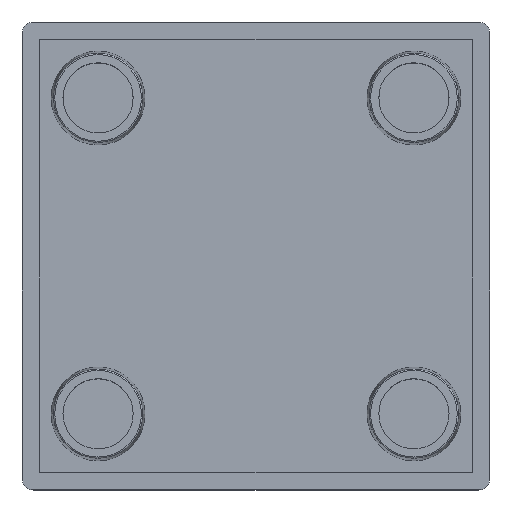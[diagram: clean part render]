
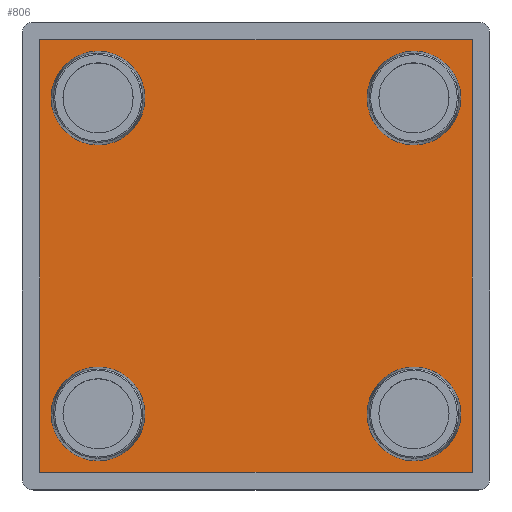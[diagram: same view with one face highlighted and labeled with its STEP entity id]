
A CAD part, top view. The second image highlights one B-rep face of the part: STEP entity #806.
In plain terms, the highlighted planar face has unit normal (0, 0, 1).
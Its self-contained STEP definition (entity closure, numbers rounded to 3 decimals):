
#16 = ORIENTED_EDGE ( 'NONE', *, *, #351, .T. ) ;
#30 = CARTESIAN_POINT ( 'NONE',  ( -13.5, -13.5, 1.5 ) ) ;
#50 = VERTEX_POINT ( 'NONE', #1244 ) ;
#70 = VERTEX_POINT ( 'NONE', #837 ) ;
#92 = CARTESIAN_POINT ( 'NONE',  ( -9.5, -13.5, 1.5 ) ) ;
#116 = LINE ( 'NONE', #1286, #218 ) ;
#141 = EDGE_LOOP ( 'NONE', ( #434, #449 ) ) ;
#147 = CARTESIAN_POINT ( 'NONE',  ( -13.5, -13.5, 1.5 ) ) ;
#157 = CARTESIAN_POINT ( 'NONE',  ( 13.5, 13.5, 1.5 ) ) ;
#159 = FACE_BOUND ( 'NONE', #632, .T. ) ;
#161 = DIRECTION ( 'NONE',  ( -1., 0., 0. ) ) ;
#162 = ORIENTED_EDGE ( 'NONE', *, *, #1660, .F. ) ;
#172 = AXIS2_PLACEMENT_3D ( 'NONE', #367, #1729, #758 ) ;
#173 = DIRECTION ( 'NONE',  ( -1., 0., 0. ) ) ;
#178 = DIRECTION ( 'NONE',  ( 0., 0., 1. ) ) ;
#186 = ORIENTED_EDGE ( 'NONE', *, *, #880, .F. ) ;
#218 = VECTOR ( 'NONE', #1159, 1000. ) ;
#235 = AXIS2_PLACEMENT_3D ( 'NONE', #405, #1416, #1600 ) ;
#240 = CIRCLE ( 'NONE', #1229, 4. ) ;
#275 = DIRECTION ( 'NONE',  ( -1., 0., 0. ) ) ;
#289 = DIRECTION ( 'NONE',  ( -1., 0., 0. ) ) ;
#293 = CARTESIAN_POINT ( 'NONE',  ( 13.5, 13.5, 1.5 ) ) ;
#308 = CIRCLE ( 'NONE', #1724, 4. ) ;
#319 = CIRCLE ( 'NONE', #470, 4. ) ;
#327 = AXIS2_PLACEMENT_3D ( 'NONE', #546, #496, #685 ) ;
#340 = ORIENTED_EDGE ( 'NONE', *, *, #1579, .T. ) ;
#347 = ORIENTED_EDGE ( 'NONE', *, *, #1551, .F. ) ;
#351 = EDGE_CURVE ( 'NONE', #1146, #967, #1720, .T. ) ;
#367 = CARTESIAN_POINT ( 'NONE',  ( -13.5, 13.5, 1.5 ) ) ;
#405 = CARTESIAN_POINT ( 'NONE',  ( 13.5, -13.5, 1.5 ) ) ;
#429 = EDGE_LOOP ( 'NONE', ( #1588, #1112 ) ) ;
#434 = ORIENTED_EDGE ( 'NONE', *, *, #722, .F. ) ;
#449 = ORIENTED_EDGE ( 'NONE', *, *, #491, .F. ) ;
#470 = AXIS2_PLACEMENT_3D ( 'NONE', #955, #994, #1531 ) ;
#483 = CIRCLE ( 'NONE', #1582, 4. ) ;
#491 = EDGE_CURVE ( 'NONE', #1654, #889, #652, .T. ) ;
#496 = DIRECTION ( 'NONE',  ( 0., 0., 1. ) ) ;
#506 = VECTOR ( 'NONE', #1674, 1000. ) ;
#516 = EDGE_CURVE ( 'NONE', #823, #721, #1667, .T. ) ;
#533 = EDGE_LOOP ( 'NONE', ( #16, #340, #607, #1722 ) ) ;
#537 = CARTESIAN_POINT ( 'NONE',  ( 18.5, 18.5, 1.5 ) ) ;
#546 = CARTESIAN_POINT ( 'NONE',  ( -13.5, 13.5, 1.5 ) ) ;
#560 = VERTEX_POINT ( 'NONE', #929 ) ;
#607 = ORIENTED_EDGE ( 'NONE', *, *, #1255, .T. ) ;
#632 = EDGE_LOOP ( 'NONE', ( #1628, #347 ) ) ;
#634 = CARTESIAN_POINT ( 'NONE',  ( -18.5, -18.5, 1.5 ) ) ;
#652 = CIRCLE ( 'NONE', #235, 4. ) ;
#668 = FACE_BOUND ( 'NONE', #141, .T. ) ;
#685 = DIRECTION ( 'NONE',  ( -1., 0., 0. ) ) ;
#689 = CARTESIAN_POINT ( 'NONE',  ( -9.5, 13.5, 1.5 ) ) ;
#703 = CARTESIAN_POINT ( 'NONE',  ( 18.5, -18.5, 1.5 ) ) ;
#708 = CARTESIAN_POINT ( 'NONE',  ( -18.5, 18.5, 1.5 ) ) ;
#709 = CARTESIAN_POINT ( 'NONE',  ( 9.5, -13.5, 1.5 ) ) ;
#721 = VERTEX_POINT ( 'NONE', #689 ) ;
#722 = EDGE_CURVE ( 'NONE', #889, #1654, #319, .T. ) ;
#730 = VECTOR ( 'NONE', #1703, 1000. ) ;
#758 = DIRECTION ( 'NONE',  ( -1., 0., 0. ) ) ;
#770 = CARTESIAN_POINT ( 'NONE',  ( 18.5, -18.5, 1.5 ) ) ;
#783 = VERTEX_POINT ( 'NONE', #1215 ) ;
#784 = AXIS2_PLACEMENT_3D ( 'NONE', #147, #1061, #275 ) ;
#794 = LINE ( 'NONE', #634, #841 ) ;
#795 = CIRCLE ( 'NONE', #784, 4. ) ;
#806 = ADVANCED_FACE ( 'NONE', ( #668, #1646, #1292, #159, #1355 ), #820, .F. ) ;
#811 = LINE ( 'NONE', #1027, #730 ) ;
#820 = PLANE ( 'NONE',  #1360 ) ;
#823 = VERTEX_POINT ( 'NONE', #1634 ) ;
#837 = CARTESIAN_POINT ( 'NONE',  ( 9.5, 13.5, 1.5 ) ) ;
#841 = VECTOR ( 'NONE', #1142, 1000. ) ;
#876 = VERTEX_POINT ( 'NONE', #708 ) ;
#880 = EDGE_CURVE ( 'NONE', #70, #783, #308, .T. ) ;
#889 = VERTEX_POINT ( 'NONE', #709 ) ;
#929 = CARTESIAN_POINT ( 'NONE',  ( -18.5, -18.5, 1.5 ) ) ;
#948 = DIRECTION ( 'NONE',  ( 0., 0., 1. ) ) ;
#955 = CARTESIAN_POINT ( 'NONE',  ( 13.5, -13.5, 1.5 ) ) ;
#967 = VERTEX_POINT ( 'NONE', #537 ) ;
#994 = DIRECTION ( 'NONE',  ( 0., 0., 1. ) ) ;
#1027 = CARTESIAN_POINT ( 'NONE',  ( -18.5, -18.5, 1.5 ) ) ;
#1061 = DIRECTION ( 'NONE',  ( 0., 0., 1. ) ) ;
#1073 = EDGE_LOOP ( 'NONE', ( #186, #162 ) ) ;
#1075 = DIRECTION ( 'NONE',  ( 0., 0., 1. ) ) ;
#1112 = ORIENTED_EDGE ( 'NONE', *, *, #1616, .F. ) ;
#1142 = DIRECTION ( 'NONE',  ( 1., 0., 0. ) ) ;
#1146 = VERTEX_POINT ( 'NONE', #703 ) ;
#1159 = DIRECTION ( 'NONE',  ( -1., 0., 0. ) ) ;
#1187 = CIRCLE ( 'NONE', #172, 4. ) ;
#1203 = CARTESIAN_POINT ( 'NONE',  ( 17.5, -13.5, 1.5 ) ) ;
#1215 = CARTESIAN_POINT ( 'NONE',  ( 17.5, 13.5, 1.5 ) ) ;
#1229 = AXIS2_PLACEMENT_3D ( 'NONE', #157, #1075, #289 ) ;
#1244 = CARTESIAN_POINT ( 'NONE',  ( -17.5, -13.5, 1.5 ) ) ;
#1255 = EDGE_CURVE ( 'NONE', #876, #560, #811, .T. ) ;
#1286 = CARTESIAN_POINT ( 'NONE',  ( -18.5, 18.5, 1.5 ) ) ;
#1292 = FACE_BOUND ( 'NONE', #429, .T. ) ;
#1296 = EDGE_CURVE ( 'NONE', #560, #1146, #794, .T. ) ;
#1344 = DIRECTION ( 'NONE',  ( 0., 0., -1. ) ) ;
#1355 = FACE_OUTER_BOUND ( 'NONE', #533, .T. ) ;
#1358 = CARTESIAN_POINT ( 'NONE',  ( 0., 0., 1.5 ) ) ;
#1360 = AXIS2_PLACEMENT_3D ( 'NONE', #1358, #1344, #1368 ) ;
#1368 = DIRECTION ( 'NONE',  ( -1., 0., 0. ) ) ;
#1416 = DIRECTION ( 'NONE',  ( 0., 0., 1. ) ) ;
#1521 = VERTEX_POINT ( 'NONE', #92 ) ;
#1531 = DIRECTION ( 'NONE',  ( -1., 0., 0. ) ) ;
#1551 = EDGE_CURVE ( 'NONE', #721, #823, #1187, .T. ) ;
#1579 = EDGE_CURVE ( 'NONE', #967, #876, #116, .T. ) ;
#1582 = AXIS2_PLACEMENT_3D ( 'NONE', #30, #948, #173 ) ;
#1588 = ORIENTED_EDGE ( 'NONE', *, *, #1721, .F. ) ;
#1600 = DIRECTION ( 'NONE',  ( -1., 0., 0. ) ) ;
#1616 = EDGE_CURVE ( 'NONE', #1521, #50, #795, .T. ) ;
#1628 = ORIENTED_EDGE ( 'NONE', *, *, #516, .F. ) ;
#1634 = CARTESIAN_POINT ( 'NONE',  ( -17.5, 13.5, 1.5 ) ) ;
#1646 = FACE_BOUND ( 'NONE', #1073, .T. ) ;
#1654 = VERTEX_POINT ( 'NONE', #1203 ) ;
#1660 = EDGE_CURVE ( 'NONE', #783, #70, #240, .T. ) ;
#1667 = CIRCLE ( 'NONE', #327, 4. ) ;
#1674 = DIRECTION ( 'NONE',  ( 0., 1., 0. ) ) ;
#1703 = DIRECTION ( 'NONE',  ( 0., -1., 0. ) ) ;
#1720 = LINE ( 'NONE', #770, #506 ) ;
#1721 = EDGE_CURVE ( 'NONE', #50, #1521, #483, .T. ) ;
#1722 = ORIENTED_EDGE ( 'NONE', *, *, #1296, .T. ) ;
#1724 = AXIS2_PLACEMENT_3D ( 'NONE', #293, #178, #161 ) ;
#1729 = DIRECTION ( 'NONE',  ( 0., 0., 1. ) ) ;
